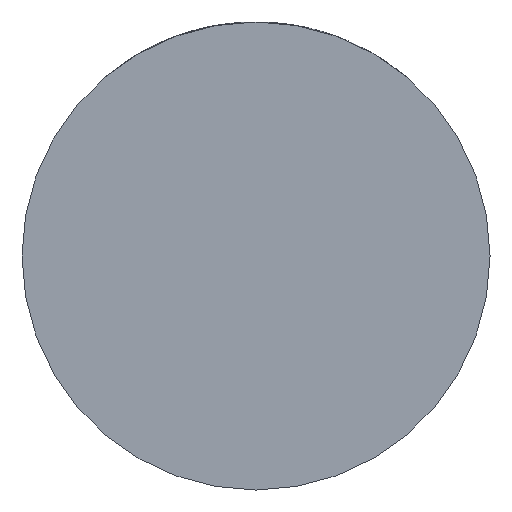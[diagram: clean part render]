
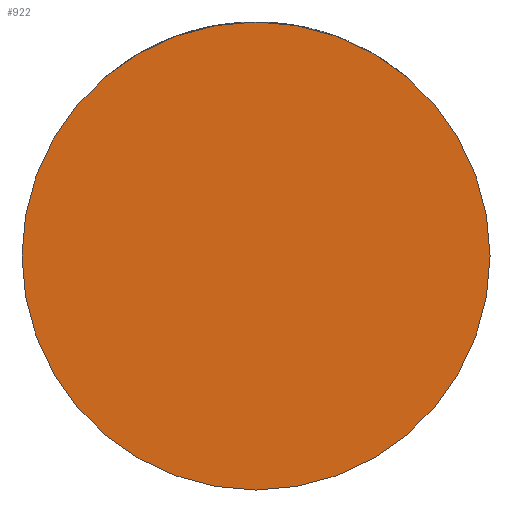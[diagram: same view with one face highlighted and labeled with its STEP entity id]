
A CAD part, front view. The second image highlights one B-rep face of the part: STEP entity #922.
In plain terms, the highlighted planar face has unit normal (0, -1, 0).
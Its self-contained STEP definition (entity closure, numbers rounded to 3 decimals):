
#73 = CARTESIAN_POINT ( 'NONE',  ( 0., -28., 0. ) ) ;
#604 = CARTESIAN_POINT ( 'NONE',  ( -32., -28., 0. ) ) ;
#800 = ORIENTED_EDGE ( 'NONE', *, *, #1357, .T. ) ;
#922 = ADVANCED_FACE ( 'NONE', ( #3389 ), #972, .T. ) ;
#972 = PLANE ( 'NONE',  #3541 ) ;
#1055 = EDGE_CURVE ( 'NONE', #2322, #3604, #1300, .T. ) ;
#1135 = DIRECTION ( 'NONE',  ( 0., -1., 0. ) ) ;
#1300 = CIRCLE ( 'NONE', #2166, 32. ) ;
#1357 = EDGE_CURVE ( 'NONE', #3604, #2322, #3828, .T. ) ;
#1739 = DIRECTION ( 'NONE',  ( 1., 0., 0. ) ) ;
#2125 = CARTESIAN_POINT ( 'NONE',  ( 0., -28., 0. ) ) ;
#2166 = AXIS2_PLACEMENT_3D ( 'NONE', #73, #2491, #3572 ) ;
#2322 = VERTEX_POINT ( 'NONE', #604 ) ;
#2491 = DIRECTION ( 'NONE',  ( 0., -1., 0. ) ) ;
#2515 = DIRECTION ( 'NONE',  ( 1., 0., 0. ) ) ;
#2717 = AXIS2_PLACEMENT_3D ( 'NONE', #2125, #1135, #2515 ) ;
#2826 = EDGE_LOOP ( 'NONE', ( #3331, #800 ) ) ;
#3121 = CARTESIAN_POINT ( 'NONE',  ( 0., -28., 0. ) ) ;
#3331 = ORIENTED_EDGE ( 'NONE', *, *, #1055, .T. ) ;
#3389 = FACE_OUTER_BOUND ( 'NONE', #2826, .T. ) ;
#3541 = AXIS2_PLACEMENT_3D ( 'NONE', #3121, #3736, #1739 ) ;
#3572 = DIRECTION ( 'NONE',  ( 1., 0., 0. ) ) ;
#3604 = VERTEX_POINT ( 'NONE', #3920 ) ;
#3736 = DIRECTION ( 'NONE',  ( 0., -1., 0. ) ) ;
#3828 = CIRCLE ( 'NONE', #2717, 32. ) ;
#3920 = CARTESIAN_POINT ( 'NONE',  ( 32., -28., 0. ) ) ;
